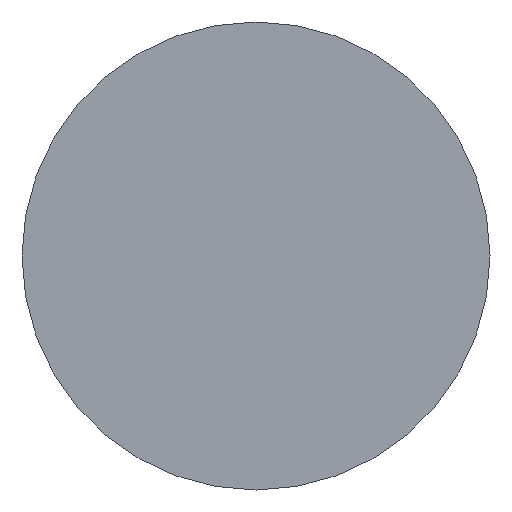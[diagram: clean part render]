
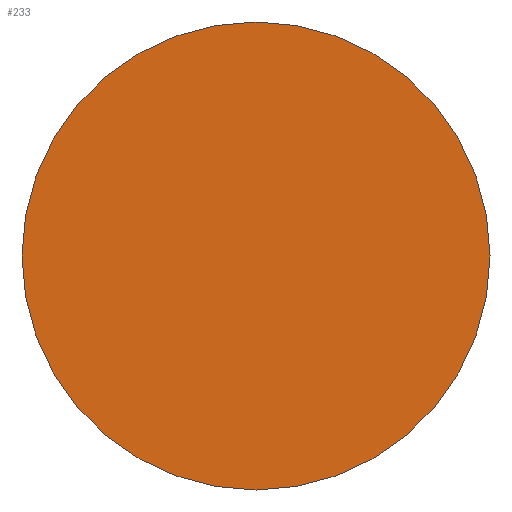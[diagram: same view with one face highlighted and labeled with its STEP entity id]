
A CAD part, left-side view. The second image highlights one B-rep face of the part: STEP entity #233.
In plain terms, the highlighted planar face has unit normal (-1, 0, 0).
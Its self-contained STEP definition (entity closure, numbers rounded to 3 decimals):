
#8 = CARTESIAN_POINT ( 'NONE',  ( 0., 0., 0. ) ) ;
#62 = DIRECTION ( 'NONE',  ( 0., -1., 0. ) ) ;
#64 = CARTESIAN_POINT ( 'NONE',  ( 0., 0., 0. ) ) ;
#65 = CARTESIAN_POINT ( 'NONE',  ( 0., -8., 0. ) ) ;
#74 = EDGE_CURVE ( 'NONE', #92, #135, #81, .T. ) ;
#81 = CIRCLE ( 'NONE', #157, 8. ) ;
#90 = FACE_OUTER_BOUND ( 'NONE', #154, .T. ) ;
#91 = DIRECTION ( 'NONE',  ( 1., 0., 0. ) ) ;
#92 = VERTEX_POINT ( 'NONE', #151 ) ;
#95 = CIRCLE ( 'NONE', #106, 8. ) ;
#103 = ORIENTED_EDGE ( 'NONE', *, *, #74, .F. ) ;
#106 = AXIS2_PLACEMENT_3D ( 'NONE', #64, #232, #247 ) ;
#116 = DIRECTION ( 'NONE',  ( 0., 1., 0. ) ) ;
#135 = VERTEX_POINT ( 'NONE', #65 ) ;
#140 = PLANE ( 'NONE',  #221 ) ;
#151 = CARTESIAN_POINT ( 'NONE',  ( 0., 8., 0. ) ) ;
#154 = EDGE_LOOP ( 'NONE', ( #103, #210 ) ) ;
#157 = AXIS2_PLACEMENT_3D ( 'NONE', #8, #91, #116 ) ;
#210 = ORIENTED_EDGE ( 'NONE', *, *, #227, .F. ) ;
#221 = AXIS2_PLACEMENT_3D ( 'NONE', #240, #230, #62 ) ;
#227 = EDGE_CURVE ( 'NONE', #135, #92, #95, .T. ) ;
#230 = DIRECTION ( 'NONE',  ( -1., 0., 0. ) ) ;
#232 = DIRECTION ( 'NONE',  ( 1., 0., 0. ) ) ;
#233 = ADVANCED_FACE ( 'NONE', ( #90 ), #140, .T. ) ;
#240 = CARTESIAN_POINT ( 'NONE',  ( 0., 0., 0. ) ) ;
#247 = DIRECTION ( 'NONE',  ( 0., 1., 0. ) ) ;
